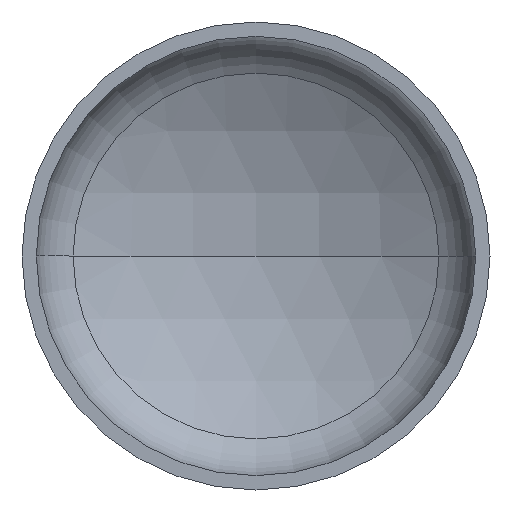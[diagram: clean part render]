
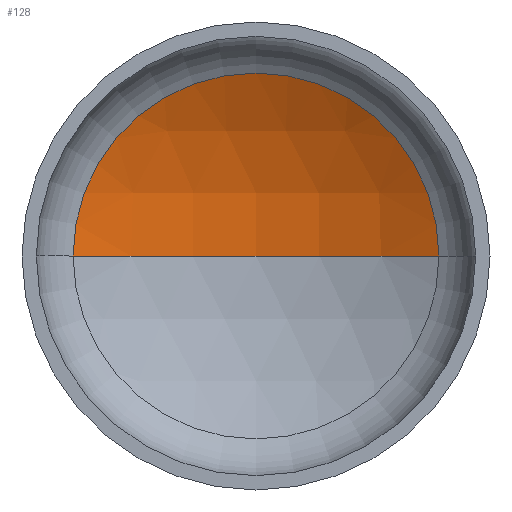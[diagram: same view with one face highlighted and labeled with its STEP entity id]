
A CAD part, front view. The second image highlights one B-rep face of the part: STEP entity #128.
In plain terms, the highlighted spherical face has radius 2400 mm.
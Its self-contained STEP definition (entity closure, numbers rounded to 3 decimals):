
#10 = ORIENTED_EDGE ( 'NONE', *, *, #358, .T. ) ;
#14 = FACE_OUTER_BOUND ( 'NONE', #25, .T. ) ;
#22 = AXIS2_PLACEMENT_3D ( 'NONE', #353, #173, #176 ) ;
#25 = EDGE_LOOP ( 'NONE', ( #67, #55, #10 ) ) ;
#26 = AXIS2_PLACEMENT_3D ( 'NONE', #170, #177, #235 ) ;
#47 = VERTEX_POINT ( 'NONE', #267 ) ;
#55 = ORIENTED_EDGE ( 'NONE', *, *, #361, .T. ) ;
#60 = CARTESIAN_POINT ( 'NONE',  ( 0., -1592.6, 0. ) ) ;
#61 = AXIS2_PLACEMENT_3D ( 'NONE', #296, #201, #291 ) ;
#67 = ORIENTED_EDGE ( 'NONE', *, *, #400, .F. ) ;
#111 = VERTEX_POINT ( 'NONE', #313 ) ;
#128 = ADVANCED_FACE ( 'NONE', ( #14 ), #190, .F. ) ;
#148 = VERTEX_POINT ( 'NONE', #224 ) ;
#153 = DIRECTION ( 'NONE',  ( 1., 0., 0. ) ) ;
#170 = CARTESIAN_POINT ( 'NONE',  ( 0., 501.338, 0. ) ) ;
#173 = DIRECTION ( 'NONE',  ( 0., 0., -1. ) ) ;
#176 = DIRECTION ( 'NONE',  ( -1., 0., 0. ) ) ;
#177 = DIRECTION ( 'NONE',  ( 0., -1., 0. ) ) ;
#190 = SPHERICAL_SURFACE ( 'NONE', #61, 2400. ) ;
#201 = DIRECTION ( 'NONE',  ( 0., 0., -1. ) ) ;
#224 = CARTESIAN_POINT ( 'NONE',  ( 0., 807.4, 0. ) ) ;
#235 = DIRECTION ( 'NONE',  ( 1., 0., 0. ) ) ;
#256 = CIRCLE ( 'NONE', #259, 2400. ) ;
#259 = AXIS2_PLACEMENT_3D ( 'NONE', #60, #302, #153 ) ;
#267 = CARTESIAN_POINT ( 'NONE',  ( 1172.784, 501.338, 0. ) ) ;
#269 = CIRCLE ( 'NONE', #22, 2400. ) ;
#291 = DIRECTION ( 'NONE',  ( -1., 0., 0. ) ) ;
#296 = CARTESIAN_POINT ( 'NONE',  ( 0., -1592.6, 0. ) ) ;
#302 = DIRECTION ( 'NONE',  ( 0., 0., 1. ) ) ;
#313 = CARTESIAN_POINT ( 'NONE',  ( -1172.784, 501.338, 0. ) ) ;
#353 = CARTESIAN_POINT ( 'NONE',  ( 0., -1592.6, 0. ) ) ;
#358 = EDGE_CURVE ( 'NONE', #47, #111, #397, .T. ) ;
#361 = EDGE_CURVE ( 'NONE', #148, #47, #269, .T. ) ;
#397 = CIRCLE ( 'NONE', #26, 1172.784 ) ;
#400 = EDGE_CURVE ( 'NONE', #148, #111, #256, .T. ) ;
